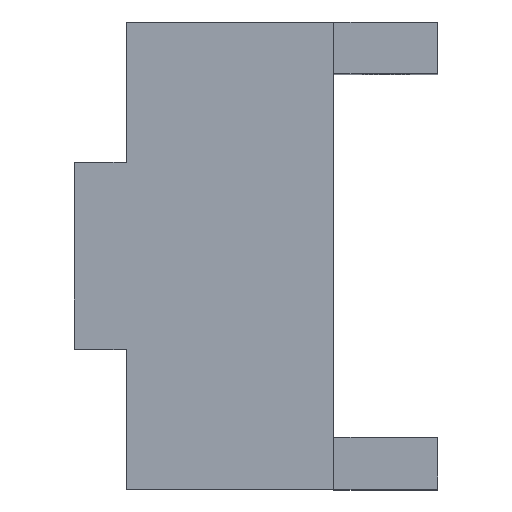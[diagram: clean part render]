
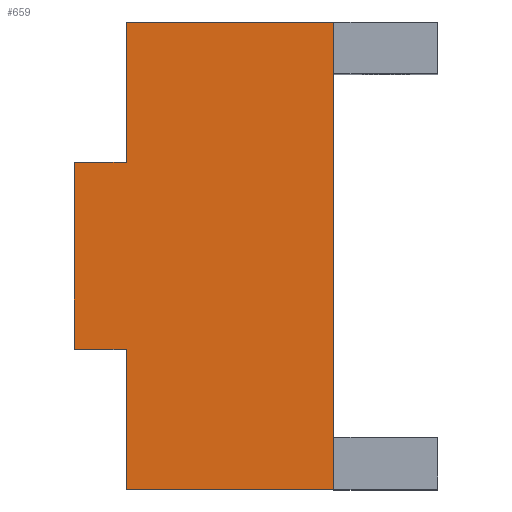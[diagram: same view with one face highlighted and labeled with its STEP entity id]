
A CAD part, top view. The second image highlights one B-rep face of the part: STEP entity #659.
In plain terms, the highlighted planar face has unit normal (0, 0, 1).
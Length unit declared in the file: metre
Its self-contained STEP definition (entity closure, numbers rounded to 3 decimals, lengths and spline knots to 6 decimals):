
#57=ORIENTED_EDGE('',*,*,#233,.F.);
#58=ORIENTED_EDGE('',*,*,#234,.F.);
#59=ORIENTED_EDGE('',*,*,#235,.T.);
#60=ORIENTED_EDGE('',*,*,#236,.F.);
#61=ORIENTED_EDGE('',*,*,#237,.T.);
#62=ORIENTED_EDGE('',*,*,#238,.T.);
#63=ORIENTED_EDGE('',*,*,#230,.T.);
#64=ORIENTED_EDGE('',*,*,#239,.T.);
#65=ORIENTED_EDGE('',*,*,#240,.T.);
#66=ORIENTED_EDGE('',*,*,#214,.F.);
#214=EDGE_CURVE('',#303,#301,#365,.T.);
#230=EDGE_CURVE('',#318,#319,#379,.T.);
#233=EDGE_CURVE('',#320,#303,#382,.T.);
#234=EDGE_CURVE('',#321,#320,#383,.T.);
#235=EDGE_CURVE('',#321,#322,#384,.T.);
#236=EDGE_CURVE('',#323,#322,#385,.T.);
#237=EDGE_CURVE('',#323,#324,#386,.T.);
#238=EDGE_CURVE('',#324,#318,#387,.T.);
#239=EDGE_CURVE('',#319,#325,#388,.T.);
#240=EDGE_CURVE('',#325,#301,#389,.T.);
#301=VERTEX_POINT('',#932);
#303=VERTEX_POINT('',#936);
#318=VERTEX_POINT('',#981);
#319=VERTEX_POINT('',#982);
#320=VERTEX_POINT('',#987);
#321=VERTEX_POINT('',#989);
#322=VERTEX_POINT('',#991);
#323=VERTEX_POINT('',#993);
#324=VERTEX_POINT('',#995);
#325=VERTEX_POINT('',#998);
#365=LINE('',#937,#440);
#379=LINE('',#980,#454);
#382=LINE('',#986,#457);
#383=LINE('',#988,#458);
#384=LINE('',#990,#459);
#385=LINE('',#992,#460);
#386=LINE('',#994,#461);
#387=LINE('',#996,#462);
#388=LINE('',#997,#463);
#389=LINE('',#999,#464);
#440=VECTOR('',#760,1.);
#454=VECTOR('',#782,1.);
#457=VECTOR('',#787,1.);
#458=VECTOR('',#788,1.);
#459=VECTOR('',#789,1.);
#460=VECTOR('',#790,1.);
#461=VECTOR('',#791,1.);
#462=VECTOR('',#792,1.);
#463=VECTOR('',#793,1.);
#464=VECTOR('',#794,1.);
#518=EDGE_LOOP('',(#57,#58,#59,#60,#61,#62,#63,#64,#65,#66));
#575=FACE_BOUND('',#518,.T.);
#629=PLANE('',#709);
#659=ADVANCED_FACE('',(#575),#629,.T.);
#709=AXIS2_PLACEMENT_3D('',#985,#785,#786);
#760=DIRECTION('',(0.,-1.,0.));
#782=DIRECTION('',(0.,-1.,0.));
#785=DIRECTION('',(0.,0.,1.));
#786=DIRECTION('',(-1.,0.,0.));
#787=DIRECTION('',(0.,-1.,0.));
#788=DIRECTION('',(1.,0.,0.));
#789=DIRECTION('',(0.,-1.,0.));
#790=DIRECTION('',(1.,0.,0.));
#791=DIRECTION('',(0.,-1.,0.));
#792=DIRECTION('',(1.,0.,0.));
#793=DIRECTION('',(1.,0.,0.));
#794=DIRECTION('',(0.,1.,0.));
#932=CARTESIAN_POINT('',(-0.085677,-0.025801,-0.014201));
#936=CARTESIAN_POINT('',(-0.085677,0.009199,-0.014201));
#937=CARTESIAN_POINT('',(-0.085677,-0.008301,-0.014201));
#980=CARTESIAN_POINT('',(-0.105677,-0.008301,-0.014201));
#981=CARTESIAN_POINT('',(-0.105677,-0.017301,-0.014201));
#982=CARTESIAN_POINT('',(-0.105677,-0.030801,-0.014201));
#985=CARTESIAN_POINT('',(-0.105677,-0.008301,-0.014201));
#986=CARTESIAN_POINT('',(-0.085677,-0.008301,-0.014201));
#987=CARTESIAN_POINT('',(-0.085677,0.014199,-0.014201));
#988=CARTESIAN_POINT('',(-0.105677,0.014199,-0.014201));
#989=CARTESIAN_POINT('',(-0.105677,0.014199,-0.014201));
#990=CARTESIAN_POINT('',(-0.105677,-0.008301,-0.014201));
#991=CARTESIAN_POINT('',(-0.105677,0.000699,-0.014201));
#992=CARTESIAN_POINT('',(-0.110677,0.000699,-0.014201));
#993=CARTESIAN_POINT('',(-0.110677,0.000699,-0.014201));
#994=CARTESIAN_POINT('',(-0.110677,-0.008301,-0.014201));
#995=CARTESIAN_POINT('',(-0.110677,-0.017301,-0.014201));
#996=CARTESIAN_POINT('',(-0.110677,-0.017301,-0.014201));
#997=CARTESIAN_POINT('',(-0.105677,-0.030801,-0.014201));
#998=CARTESIAN_POINT('',(-0.085677,-0.030801,-0.014201));
#999=CARTESIAN_POINT('',(-0.085677,-0.008301,-0.014201));
